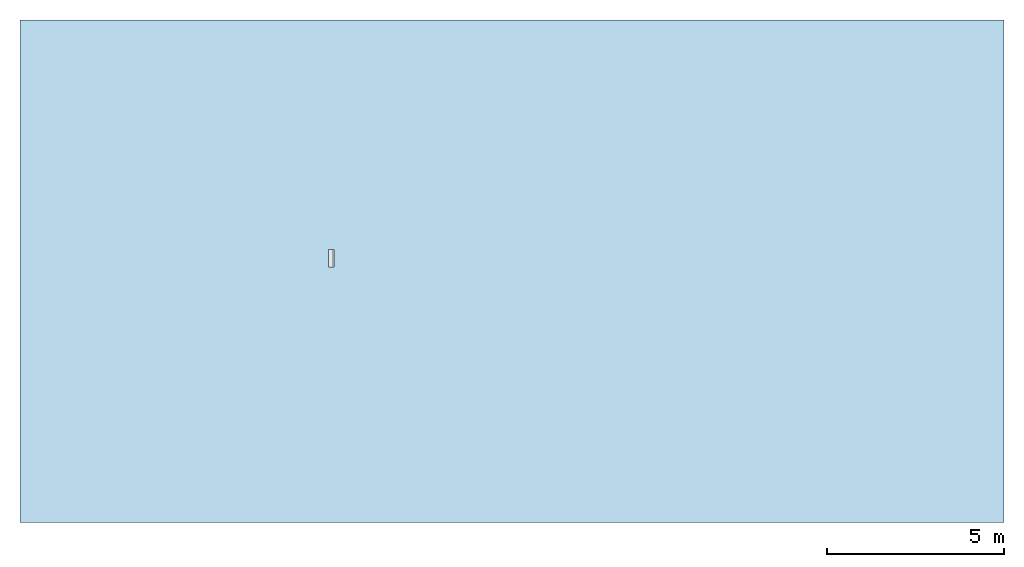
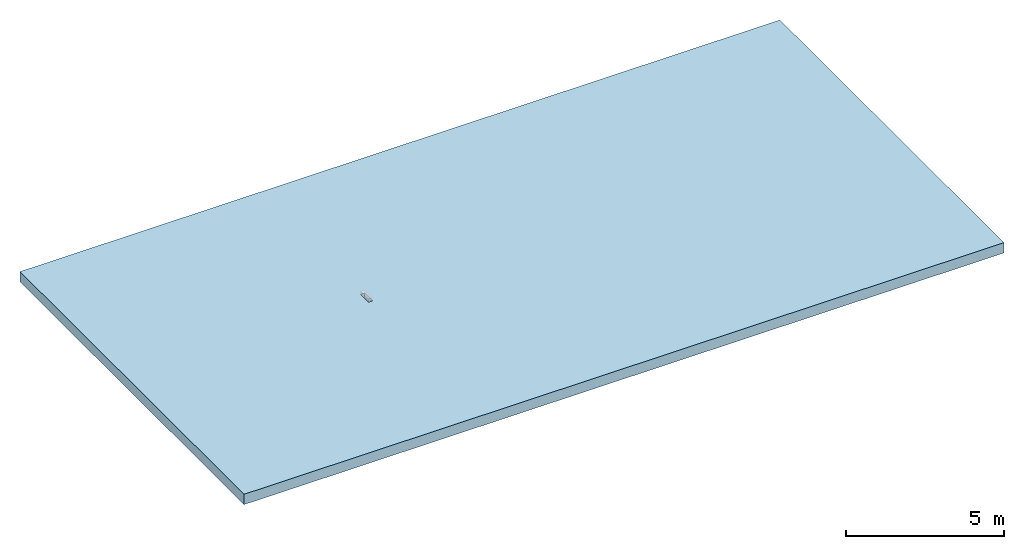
# One storey, part 1 of 2: 1 slab, 2 openings.
"""IFC2X3 building model written with IfcOpenShell, lengths in millimetres."""

from ifc_helpers import new_model, entity, si_unit, converted_unit, direction, frame, frame_2d, origin, origin_2d_with_axis, place, context, subcontext, project, spatial, rectangle, circle, extrude, material, layer, layer_set, layer_usage, element, save


model = new_model("IFC2X3")

# Units and contexts
model_context = context("Model", 3, precision=1e-06, world=origin(), true_north=direction((2.0, 6.12303176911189e-17, 1.0)))
context_of_model = context(None, 3, precision=1e-06, world=origin(), true_north=direction((2.0, 6.12303176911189e-17, 1.0)))
body_context = subcontext(model_context, "Body", "Model", "MODEL_VIEW")
ifc_project = project(units=[si_unit("LENGTHUNIT", "METRE", prefix="MILLI"), si_unit("AREAUNIT", "SQUARE_METRE", prefix="MILLI"), si_unit("VOLUMEUNIT", "CUBIC_METRE", prefix="MILLI"), converted_unit("PLANEANGLEUNIT", "DEGREE", entity("IfcRatioMeasure", 0.0174532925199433), si_unit("PLANEANGLEUNIT", "RADIAN"), dimensions=[0, 0, 0, 0, 0, 0, 0]), si_unit("TIMEUNIT", "SECOND")], contexts=[model_context, context_of_model])

# Site, building, storey
site_placement = place(None, origin())
site = spatial("IfcSite", under=ifc_project, at=site_placement, Name="Default", CompositionType="ELEMENT")
building_placement = place(site_placement, origin())
building = spatial("IfcBuilding", under=site, at=building_placement, CompositionType="ELEMENT")
storey_placement = place(building_placement, origin())
storey = spatial("IfcBuildingStorey", under=building, at=storey_placement, Name="Level 1", CompositionType="ELEMENT", Elevation=0.0)

# Slab, openings
ifc_material = material(Name="Plant")
ifc_layer = layer(ifc_material, 400.0)
ifc_layer_set = layer_set([ifc_layer], Name="Floor:Generic Floor - 400mm")
ifc_layer_usage = layer_usage(ifc_layer_set, "AXIS3", "POSITIVE", 0.0)
slab_placement = place(storey_placement, origin())
slab = element("IfcSlab", 1, at=slab_placement, inside=storey, material=ifc_layer_usage, Name="Floor:Generic Floor - 400mm", ObjectType="Floor:Generic Floor - 400mm", PredefinedType="FLOOR", context=body_context, shape_type="SweptSolid", body=[
    extrude(rectangle(XDim=14200.0, YDim=27800.0, at=frame_2d((0.0, 0.0), x_axis=(0.0, -1.0))), frame((-11336.9334558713, 3358.01168144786, 0.0), z_axis=(0.0, 0.0, -1.0), x_axis=(-1.0, 0.0, 0.0)), (0.0, 0.0, 1.0), 400.0),
])
opening_1_placement = place(slab_placement, origin())
element("IfcOpeningElement", 2, at=opening_1_placement, cuts=slab, ObjectType="Recess", context=body_context, shape_type="SweptSolid", body=[
    extrude(circle(Radius=55.0000000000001, at=origin_2d_with_axis()), frame((-16445.0929860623, 3525.53128318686, -5875.0), z_axis=(0.0, 1.0, 0.0), x_axis=(1.0, 0.0, 0.0)), (0.0, 0.0, 1.0), 50.0),
])
opening_2_placement = place(slab_placement, origin())
element("IfcOpeningElement", 3, at=opening_2_placement, cuts=slab, ObjectType="Recess", context=body_context, shape_type="SweptSolid", body=[
    extrude(rectangle(XDim=500.0, YDim=150.000000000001, at=origin_2d_with_axis()), frame((-16445.0929860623, 3725.53128318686, -180.0), z_axis=(0.0, 0.0, 1.0), x_axis=(0.0, -1.0, 0.0)), (0.0, 0.0, 1.0), 180.0),
])

save(model, "model.ifc")
